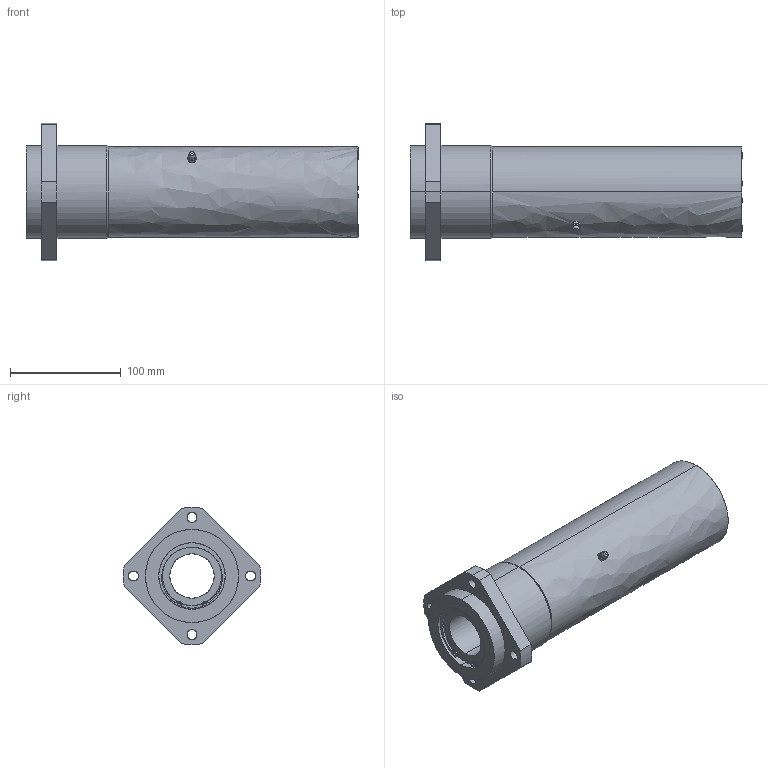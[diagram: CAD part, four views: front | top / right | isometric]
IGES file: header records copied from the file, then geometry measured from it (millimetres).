
Global section: file name: No Iges File Name specified; native system: AutoDesk Inventor R10; preprocessor: AutoDesk Inventor Iges Exporter R10; author: No Author specified; organization: No Organization specified; date: 20101214.141526; units: millimetre
Bounding box: 300 x 123.84 x 124 mm (x, y, z)
Surface area: 148649.9 mm2 (no closed solid volume)
Topology: 0 solids, 0 shells, 162 faces, 1111 edges, 1109 vertices
Faces by surface type: bspline 162
